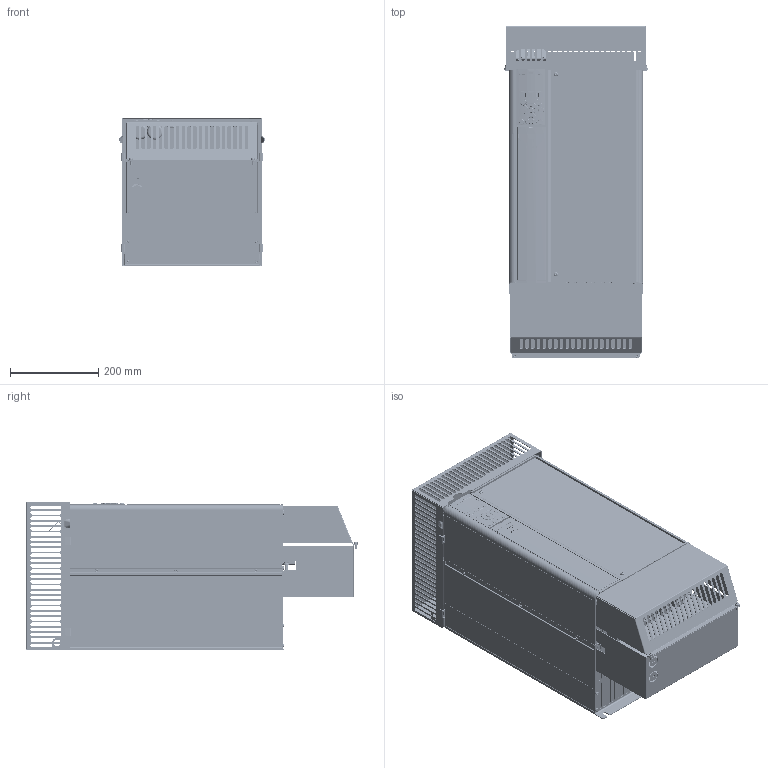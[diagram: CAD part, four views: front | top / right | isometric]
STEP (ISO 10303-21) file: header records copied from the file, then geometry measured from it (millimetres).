
FILE_DESCRIPTION((''),'2;1');
FILE_NAME('DANFOSS-FC100C3NEMA1KITOPT-197','2008-10-23T',('Abhilash.Paramesh'),('Danfoss Drives A/S'),'PRO/ENGINEER BY PARAMETRIC TECHNOLOGY CORPORATION, 2007160','PRO/ENGINEER BY PARAMETRIC TECHNOLOGY CORPORATION, 2007160','');
FILE_SCHEMA(('CONFIG_CONTROL_DESIGN', 'GEOMETRIC_VALIDATION_PROPERTIES_MIM'));
Products named in the file (1): DANFOSS-FC100C3NEMA1KITOPT-197
Bounding box: 328.72 x 751.65 x 337 mm (x, y, z)
Volume: 45736064.2 mm3; surface area: 2809248.9 mm2
Topology: 2 solids, 40 shells, 7811 faces, 21546 edges, 13767 vertices
Faces by surface type: plane 4451, cylinder 2203, bspline 722, torus 162, cone 106, sphere 86, extrusion 81
Entity records: 462667 total; most frequent: CARTESIAN_POINT 159295, ORIENTED_EDGE 42888, DIRECTION 36141, PRESENTATION_STYLE_ASSIGNMENT 25727, STYLED_ITEM 21530, CURVE_STYLE 21524, EDGE_CURVE 21444, VERTEX_POINT 13767
